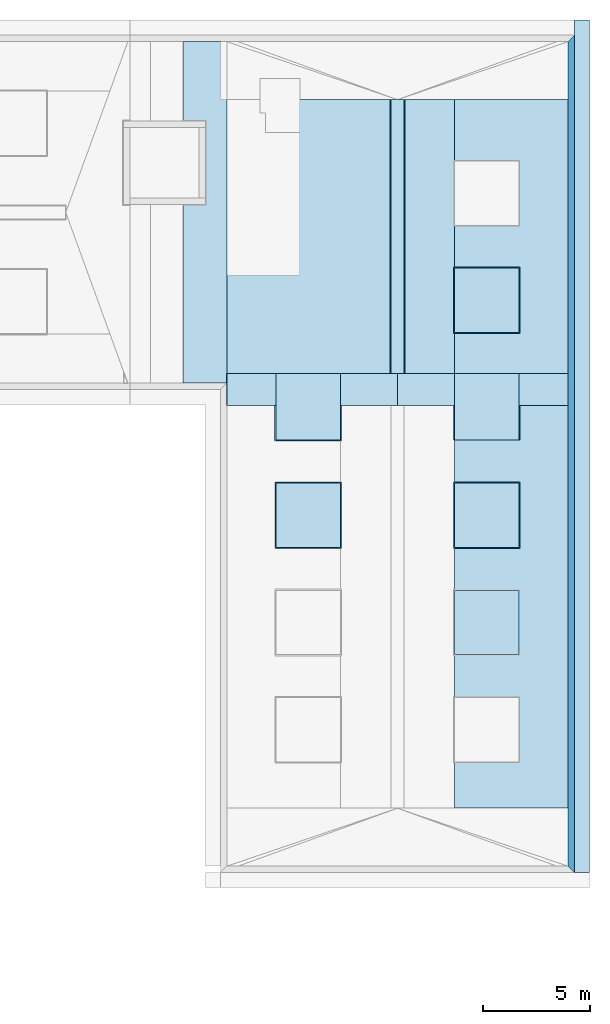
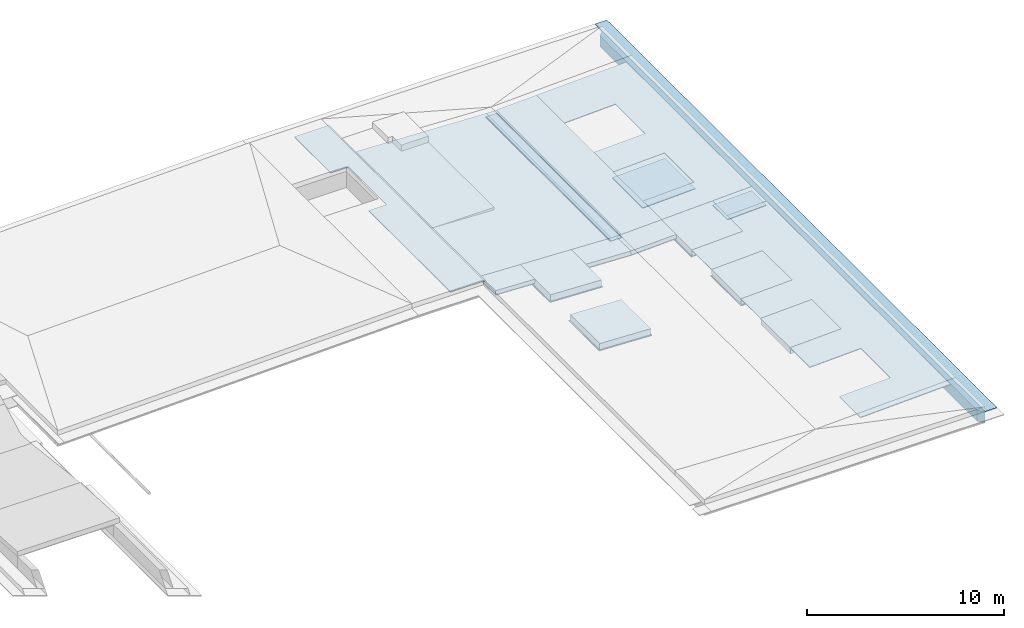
# One storey, part 3 of 8: 28 footings.
"""IFC4 building model written with IfcOpenShell, lengths in millimetres."""

from ifc_helpers import new_model, entity, si_unit, converted_unit, derived_unit, direction, frame, origin_with_axes, place, context, subcontext, project, spatial, polygons, material, type_object, element, save


model = new_model("IFC4")

# Units and contexts
model_context = context("Model", 3, precision=0.01, world=origin_with_axes(), true_north=direction((0.0, 1.0)))
body_context = subcontext(model_context, "Body", "Model", "MODEL_VIEW")
ifc_project = project(units=[si_unit("LENGTHUNIT", "METRE", prefix="MILLI"), si_unit("AREAUNIT", "SQUARE_METRE"), si_unit("VOLUMEUNIT", "CUBIC_METRE"), converted_unit("PLANEANGLEUNIT", "DEGREE", entity("IfcPlaneAngleMeasure", 0.0174532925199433), si_unit("PLANEANGLEUNIT", "RADIAN"), dimensions=[0, 0, 0, 0, 0, 0, 0]), converted_unit("TIMEUNIT", "Year", entity("IfcTimeMeasure", 31557600.0), si_unit("TIMEUNIT", "SECOND"), dimensions=[0, 0, 1, 0, 0, 0, 0]), si_unit("MASSUNIT", "GRAM", prefix="KILO"), si_unit("THERMODYNAMICTEMPERATUREUNIT", "DEGREE_CELSIUS"), si_unit("LUMINOUSINTENSITYUNIT", "LUMEN"), si_unit("ENERGYUNIT", "JOULE", prefix="MEGA"), derived_unit("THERMALCONDUCTANCEUNIT", [(si_unit("POWERUNIT", "WATT"), 1), (si_unit("LENGTHUNIT", "METRE"), -1), (si_unit("THERMODYNAMICTEMPERATUREUNIT", "KELVIN"), -1)]), derived_unit("SPECIFICHEATCAPACITYUNIT", [(si_unit("ENERGYUNIT", "JOULE"), 1), (si_unit("MASSUNIT", "GRAM", prefix="KILO"), -1), (si_unit("THERMODYNAMICTEMPERATUREUNIT", "KELVIN"), -1)]), derived_unit("MASSDENSITYUNIT", [(si_unit("MASSUNIT", "GRAM", prefix="KILO"), 1), (si_unit("VOLUMEUNIT", "CUBIC_METRE"), -1)])], contexts=[model_context])

# Site, building, storey
site_placement = place(None, origin_with_axes())
site = spatial("IfcSite", under=ifc_project, at=site_placement, Name="Gelände", CompositionType="ELEMENT")
building_placement = place(site_placement, origin_with_axes())
building = spatial("IfcBuilding", under=site, at=building_placement, Name="Gebäude", CompositionType="ELEMENT")
storey_placement = place(building_placement, frame((0.0, 0.0, -6000.0), z_axis=(0.0, 0.0, 1.0), x_axis=(1.0, 0.0, 0.0)))
storey = spatial("IfcBuildingStorey", under=building, at=storey_placement, Name="Fundation", CompositionType="ELEMENT", Elevation=-6000.0)

# Footings
ifc_material_1 = material(Name="Magerbeton")
footing_type_1 = type_object("IfcFootingType", Name="Magerbeton 50", PredefinedType="NOTDEFINED")
footing_1_placement = place(storey_placement, frame((24678.99744477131, 22197.59728131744, 2021.02494472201), z_axis=(0.0, 0.0, 1.0), x_axis=(0.0, 1.0, 0.0)))
element("IfcFooting", 1, at=footing_1_placement, inside=storey, type_object=footing_type_1, material=ifc_material_1, Name="Dach-009", PredefinedType="NOTDEFINED", context=body_context, shape_type="Tessellation", body=[
    polygons([(1499.999999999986, -7949.999999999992, 368.0399840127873), (14249.99999999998, -7949.999999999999, 368.0399840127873), (14249.99999999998, -2667.193634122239, 156.727729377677), (11399.99992176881, -2667.193634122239, 156.727729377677), (11399.99992176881, -5664.797692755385, 276.631891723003), (8400.00008940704, -5664.797692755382, 276.6318917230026), (8400.00008940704, -2667.193634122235, 156.7277293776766), (6400.000011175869, -2667.193634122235, 156.7277293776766), (6400.000011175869, -5664.797692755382, 276.6318917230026), (3399.99998882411, -5664.797692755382, 276.6318917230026), (3399.99998882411, -2667.193634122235, 156.7277293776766), (1499.999999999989, -2667.193634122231, 156.7277293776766), (1499.99999961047, -7950.000000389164, 318.0000002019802), (14249.99999961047, -7950.000000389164, 318.0000002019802), (14249.99999961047, -2667.193634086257, 106.6877455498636), (11399.9999217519, -2667.193634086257, 106.6877455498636), (11399.9999217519, -5664.79769301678, 226.591907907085), (8400.000089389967, -5664.79769301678, 226.591907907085), (8400.000089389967, -2667.193634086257, 106.6877455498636), (6400.00001115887, -2667.193634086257, 106.6877455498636), (6400.00001115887, -5664.79769301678, 226.591907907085), (3399.999988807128, -5664.79769301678, 226.591907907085), (3399.999988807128, -2667.193634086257, 106.6877455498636), (1499.99999961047, -2667.193634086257, 106.6877455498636)], [[[1, 2, 3, 4, 5, 6, 7, 8, 9, 10, 11, 12]], [[2, 1, 13, 14]], [[3, 2, 14, 15]], [[4, 3, 15, 16]], [[5, 4, 16, 17]], [[6, 5, 17, 18]], [[7, 6, 18, 19]], [[8, 7, 19, 20]], [[9, 8, 20, 21]], [[10, 9, 21, 22]], [[11, 10, 22, 23]], [[12, 11, 23, 24]], [[1, 12, 24, 13]], [[14, 13, 24, 23, 22, 21, 20, 19, 18, 17, 16, 15]]], closed=True),
])
footing_2_placement = place(storey_placement, frame((24678.94679590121, 22197.59728131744, 2019.718086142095), z_axis=(0.0, 0.0, 1.0), x_axis=(0.0, 1.0, 0.0)))
element("IfcFooting", 2, at=footing_2_placement, inside=storey, type_object=footing_type_1, material=ifc_material_1, Name="Dach-009", PredefinedType="NOTDEFINED", context=body_context, shape_type="Tessellation", body=[
    polygons([(-16600.00011175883, -2651.147250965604, 156.0858740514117), (-18750.00000000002, -2651.1472509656, 156.0858740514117), (-18750.00000000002, -7950.050648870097, 368.0420099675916), (0.0, -7950.05064887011, 368.0420099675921), (0.0, -5648.802052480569, 275.9920661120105), (-1600.000111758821, -5648.802052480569, 275.9920661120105), (-1600.000111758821, -2651.197899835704, 156.0879000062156), (-3600.00011175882, -2651.197899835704, 156.0879000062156), (-3600.00011175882, -5648.802052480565, 275.9920661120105), (-6600.000111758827, -5648.802052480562, 275.9920661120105), (-6600.000111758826, -2651.197899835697, 156.0879000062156), (-8600.000111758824, -2651.197899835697, 156.0879000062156), (-8600.000111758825, -5648.802052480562, 275.9920661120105), (-11600.00011175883, -5648.802052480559, 275.9920661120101), (-11600.00011175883, -2651.197899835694, 156.0879000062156), (-13600.00011175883, -2651.197899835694, 156.0879000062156), (-13600.00011175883, -5648.751403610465, 275.9900401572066), (-16600.00011175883, -5648.751403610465, 275.9900401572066), (-16600.00011177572, -2651.147251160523, 106.0458902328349), (-18750.00000038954, -2651.147251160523, 106.0458902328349), (-18750.00000038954, -7950.050649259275, 318.0020261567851), (-3.895372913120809e-07, -7950.050649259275, 318.0020261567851), (-3.895372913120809e-07, -5648.802052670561, 225.9520822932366), (-1600.000111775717, -5648.802052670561, 225.9520822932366), (-1600.000111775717, -2651.197899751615, 106.0479161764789), (-3600.000111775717, -2651.197899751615, 106.0479161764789), (-3600.000111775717, -5648.802052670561, 225.9520822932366), (-6600.000111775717, -5648.802052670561, 225.9520822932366), (-6600.000111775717, -2651.197899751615, 106.0479161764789), (-8600.000111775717, -2651.197899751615, 106.0479161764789), (-8600.000111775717, -5648.802052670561, 225.9520822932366), (-11600.00011177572, -5648.802052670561, 225.9520822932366), (-11600.00011177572, -2651.197899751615, 106.0479161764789), (-13600.00011177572, -2651.197899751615, 106.0479161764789), (-13600.00011177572, -5648.751403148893, 225.95005631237), (-16600.00011177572, -5648.751403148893, 225.95005631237)], [[[1, 2, 3, 4, 5, 6, 7, 8, 9, 10, 11, 12, 13, 14, 15, 16, 17, 18]], [[2, 1, 19, 20]], [[3, 2, 20, 21]], [[4, 3, 21, 22]], [[5, 4, 22, 23]], [[6, 5, 23, 24]], [[7, 6, 24, 25]], [[8, 7, 25, 26]], [[9, 8, 26, 27]], [[10, 9, 27, 28]], [[11, 10, 28, 29]], [[12, 11, 29, 30]], [[13, 12, 30, 31]], [[14, 13, 31, 32]], [[15, 14, 32, 33]], [[16, 15, 33, 34]], [[17, 16, 34, 35]], [[18, 17, 35, 36]], [[1, 18, 36, 19]], [[20, 19, 36, 35, 34, 33, 32, 31, 30, 29, 28, 27, 26, 25, 24, 23, 22, 21]]], closed=True),
])
footing_3_placement = place(storey_placement, frame((24676.99904285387, 22197.59728131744, 2019.636976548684), z_axis=(0.0, 0.0, 1.0), x_axis=(0.0, 1.0, 0.0)))
element("IfcFooting", 3, at=footing_3_placement, inside=storey, type_object=footing_type_1, material=ifc_material_1, Name="Dach-009", PredefinedType="NOTDEFINED", context=body_context, shape_type="Tessellation", body=[
    polygons([(1499.999999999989, -2669.192036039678, 156.8076654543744), (14249.99999999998, -2669.192036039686, 156.8076654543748), (14249.99999999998, -301.9984019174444, 62.11992008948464), (1499.999999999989, -301.9984019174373, 62.11992008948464), (1499.999999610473, -2669.192036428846, 106.7676816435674), (14249.99999961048, -2669.192036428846, 106.7676816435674), (14249.99999961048, -301.9984019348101, 12.07993626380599), (1499.999999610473, -301.9984019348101, 12.07993626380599)], [[[1, 2, 3, 4]], [[2, 1, 5, 6]], [[3, 2, 6, 7]], [[4, 3, 7, 8]], [[1, 4, 8, 5]], [[6, 5, 8, 7]]], closed=True),
])
footing_4_placement = place(storey_placement, frame((24680.99584668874, 36447.59728131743, 2019.636976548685), z_axis=(0.0, 0.0, 1.0), x_axis=(0.0, -1.0, 0.0)))
element("IfcFooting", 4, at=footing_4_placement, inside=storey, type_object=footing_type_1, material=ifc_material_1, Name="Dach-009", PredefinedType="NOTDEFINED", context=body_context, shape_type="Tessellation", body=[
    polygons([(0.0, -7949.999999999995, 368.0399840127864), (12750.0, -7949.999999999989, 368.0399840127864), (12750.0, -301.9984019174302, 62.11992008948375), (0.0, -301.9984019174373, 62.1199200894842), (-3.895195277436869e-07, -7950.000000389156, 318.0000002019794), (12749.99999961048, -7950.000000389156, 318.0000002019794), (12749.99999961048, -301.9984018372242, 12.079936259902), (-3.895195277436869e-07, -301.9984018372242, 12.079936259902)], [[[1, 2, 3, 4]], [[2, 1, 5, 6]], [[3, 2, 6, 7]], [[4, 3, 7, 8]], [[1, 4, 8, 5]], [[6, 5, 8, 7]]], closed=True),
])
footing_5_placement = place(storey_placement, frame((18964.23958879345, 18647.5972813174, 1872.231201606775), z_axis=(0.0, 0.0, 1.0), x_axis=(0.0, -1.0, 0.0)))
element("IfcFooting", 5, at=footing_5_placement, inside=storey, type_object=footing_type_1, material=ifc_material_1, Name="Dach-009", PredefinedType="NOTDEFINED", context=body_context, shape_type="Tessellation", body=[
    polygons([(0.0, 3107.516304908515, -74.22755005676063), (0.0, 0.0, 50.03996270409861), (3100.0, 0.0, 50.03996270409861), (3100.0, 3107.516304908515, -74.22755005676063), (-3.895159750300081e-07, 3107.516304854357, -124.2675125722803), (-3.895159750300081e-07, -3.891571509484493e-07, 2.01976213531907e-07), (3100.000000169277, -3.891571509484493e-07, 2.01976213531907e-07), (3100.000000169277, 3107.516304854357, -124.2675125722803)], [[[1, 2, 3, 4]], [[2, 1, 5, 6]], [[3, 2, 6, 7]], [[4, 3, 7, 8]], [[1, 4, 8, 5]], [[6, 5, 8, 7]]], closed=True),
])
footing_6_placement = place(storey_placement, frame((18962.24012200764, 23647.59728131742, 1847.733969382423), z_axis=(0.0, 0.0, 1.0), x_axis=(0.0, -1.0, 0.0)))
element("IfcFooting", 6, at=footing_6_placement, inside=storey, type_object=footing_type_1, material=ifc_material_1, Name="Dach-009", PredefinedType="NOTDEFINED", context=body_context, shape_type="Tessellation", body=[
    polygons([(-50.00000000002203, 3107.516304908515, -74.22755005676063), (-50.00000000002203, 0.0, 50.03996270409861), (3099.999999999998, 0.0, 50.03996270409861), (3099.999999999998, 3107.516304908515, -74.22755005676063), (-50.000000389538, 3107.516304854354, -124.2675125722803), (-50.000000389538, -3.891607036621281e-07, 2.01976213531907e-07), (3099.999999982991, -3.891607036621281e-07, 2.01976213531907e-07), (3099.999999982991, 3107.516304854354, -124.2675125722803)], [[[1, 2, 3, 4]], [[2, 1, 5, 6]], [[3, 2, 6, 7]], [[4, 3, 7, 8]], [[1, 4, 8, 5]], [[6, 5, 8, 7]]], closed=True),
])
footing_7_placement = place(storey_placement, frame((30393.75530074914, 15547.5972813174, 1872.231201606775), z_axis=(0.0, 0.0, 1.0), x_axis=(0.0, 1.0, 0.0)))
element("IfcFooting", 7, at=footing_7_placement, inside=storey, type_object=footing_type_1, material=ifc_material_1, Name="Dach-009", PredefinedType="NOTDEFINED", context=body_context, shape_type="Tessellation", body=[
    polygons([(0.0, 0.0, 50.03996270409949), (3099.999999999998, 0.0, 50.03996270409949), (3099.999999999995, 3097.524291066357, -73.82797606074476), (0.0, 3097.524291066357, -73.82797606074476), (-3.895159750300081e-07, -3.891642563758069e-07, 2.019771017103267e-07), (3100.000000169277, -3.891642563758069e-07, 2.019771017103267e-07), (3100.000000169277, 3097.524291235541, -123.8679385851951), (-3.895159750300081e-07, 3097.524291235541, -123.8679385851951)], [[[1, 2, 3, 4]], [[2, 1, 5, 6]], [[3, 2, 6, 7]], [[4, 3, 7, 8]], [[1, 4, 8, 5]], [[6, 5, 8, 7]]], closed=True),
])
footing_8_placement = place(storey_placement, frame((30395.75476753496, 20597.59728131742, 1847.733969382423), z_axis=(0.0, 0.0, 1.0), x_axis=(0.0, 1.0, 0.0)))
element("IfcFooting", 8, at=footing_8_placement, inside=storey, type_object=footing_type_1, material=ifc_material_1, Name="Dach-009", PredefinedType="NOTDEFINED", context=body_context, shape_type="Tessellation", body=[
    polygons([(0.0, 0.0, 50.03996270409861), (3099.999999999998, 0.0, 50.03996270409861), (3099.999999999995, 3097.524291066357, -73.82797606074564), (0.0, 3097.524291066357, -73.82797606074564), (-3.895159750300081e-07, -3.891642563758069e-07, 2.019753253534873e-07), (3100.000000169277, -3.891642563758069e-07, 2.019753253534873e-07), (3100.000000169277, 3097.524291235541, -123.867938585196), (-3.895159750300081e-07, 3097.524291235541, -123.867938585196)], [[[1, 2, 3, 4]], [[2, 1, 5, 6]], [[3, 2, 6, 7]], [[4, 3, 7, 8]], [[1, 4, 8, 5]], [[6, 5, 8, 7]]], closed=True),
])
footing_9_placement = place(storey_placement, frame((30393.75530074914, 25547.5972813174, 1872.231201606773), z_axis=(0.0, 0.0, 1.0), x_axis=(0.0, 1.0, 0.0)))
element("IfcFooting", 9, at=footing_9_placement, inside=storey, type_object=footing_type_1, material=ifc_material_1, Name="Dach-009", PredefinedType="NOTDEFINED", context=body_context, shape_type="Tessellation", body=[
    polygons([(0.0, 0.0, 50.03996270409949), (3099.999999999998, 0.0, 50.03996270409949), (3099.999999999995, 3097.524291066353, -73.82797606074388), (0.0, 3097.524291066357, -73.82797606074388), (-3.895159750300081e-07, -3.891642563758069e-07, 2.019771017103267e-07), (3100.000000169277, -3.891642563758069e-07, 2.019771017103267e-07), (3100.000000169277, 3097.524291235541, -123.8679385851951), (-3.895159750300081e-07, 3097.524291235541, -123.8679385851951)], [[[1, 2, 3, 4]], [[2, 1, 5, 6]], [[3, 2, 6, 7]], [[4, 3, 7, 8]], [[1, 4, 8, 5]], [[6, 5, 8, 7]]], closed=True),
])
footing_10_placement = place(storey_placement, frame((22016.62026772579, 23697.59728131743, 1875.987014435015), z_axis=(0.0, 0.0, 1.0), x_axis=(0.0, -1.0, 0.0)))
element("IfcFooting", 10, at=footing_10_placement, inside=storey, type_object=footing_type_1, material=ifc_material_1, Name="Dach-009", PredefinedType="NOTDEFINED", context=body_context, shape_type="Tessellation", body=[
    polygons([(0.0, 2662.377177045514, -56.42673203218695), (0.0, 0.0, 50.03996270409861), (1500.0, 0.0, 50.03996270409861), (1500.0, 2662.377177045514, -56.42673203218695), (-3.895159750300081e-07, 2662.377177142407, -106.4666945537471), (-3.895159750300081e-07, -3.891607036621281e-07, 2.019753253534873e-07), (1499.999999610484, -3.891607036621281e-07, 2.019753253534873e-07), (1499.999999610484, 2662.377177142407, -106.4666945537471)], [[[1, 2, 3, 4]], [[2, 1, 5, 6]], [[3, 2, 6, 7]], [[4, 3, 7, 8]], [[1, 4, 8, 5]], [[6, 5, 8, 7]]], closed=True),
])
footing_11_placement = place(storey_placement, frame((32628.99744477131, 20597.59728131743, 2087.519700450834), z_axis=(0.0, 0.0, 1.0), x_axis=(0.0, 1.0, 0.0)))
element("IfcFooting", 11, at=footing_11_placement, inside=storey, type_object=footing_type_1, material=ifc_material_1, Name="Dach-009", PredefinedType="NOTDEFINED", context=body_context, shape_type="Tessellation", body=[
    polygons([(1600.000000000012, 0.0, 50.03996270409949), (3100.000000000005, 0.0, 50.03996270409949), (3099.999999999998, 2291.208597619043, -41.58394710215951), (1600.000000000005, 2291.208597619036, -41.58394710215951), (1599.999999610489, -3.891713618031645e-07, 2.01976213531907e-07), (3099.999999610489, -3.891713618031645e-07, 2.01976213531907e-07), (3099.999999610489, 2291.208597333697, -91.62390960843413), (1599.999999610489, 2291.208597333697, -91.62390960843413)], [[[1, 2, 3, 4]], [[2, 1, 5, 6]], [[3, 2, 6, 7]], [[4, 3, 7, 8]], [[1, 4, 8, 5]], [[6, 5, 8, 7]]], closed=True),
])
footing_12_placement = place(storey_placement, frame((16722.00489984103, 25297.59728131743, 2087.799397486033), z_axis=(0.0, 0.0, 1.0), x_axis=(0.0, -1.0, 0.0)))
element("IfcFooting", 12, at=footing_12_placement, inside=storey, type_object=footing_type_1, material=ifc_material_1, Name="Dach-009", PredefinedType="NOTDEFINED", context=body_context, shape_type="Tessellation", body=[
    polygons([(1600.000000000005, 2298.202888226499, -41.86364413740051), (1600.000000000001, 0.0, 50.03996270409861), (3100.000000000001, 0.0, 50.03996270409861), (3100.000000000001, 2298.202888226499, -41.86364413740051), (1599.999999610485, 2298.202888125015, -91.90360665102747), (1599.999999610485, -3.891678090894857e-07, 2.01976213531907e-07), (3099.999999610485, -3.891678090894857e-07, 2.01976213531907e-07), (3099.999999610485, 2298.202888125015, -91.90360665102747)], [[[1, 2, 3, 4]], [[2, 1, 5, 6]], [[3, 2, 6, 7]], [[4, 3, 7, 8]], [[1, 4, 8, 5]], [[6, 5, 8, 7]]], closed=True),
])
footing_13_placement = place(storey_placement, frame((27341.37462181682, 22197.59728131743, 1875.987014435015), z_axis=(0.0, 0.0, 1.0), x_axis=(0.0, 1.0, 0.0)))
element("IfcFooting", 13, at=footing_13_placement, inside=storey, type_object=footing_type_1, material=ifc_material_1, Name="Dach-009", PredefinedType="NOTDEFINED", context=body_context, shape_type="Tessellation", body=[
    polygons([(0.0, 0.0, 50.03996270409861), (1500.0, 0.0, 50.03996270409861), (1500.0, 2662.377177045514, -56.42673203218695), (0.0, 2662.377177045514, -56.42673203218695), (-3.895159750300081e-07, -3.891642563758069e-07, 2.01976213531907e-07), (1499.999999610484, -3.891642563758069e-07, 2.01976213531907e-07), (1499.999999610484, 2662.377177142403, -106.4666945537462), (-3.895159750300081e-07, 2662.377177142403, -106.4666945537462)], [[[1, 2, 3, 4]], [[2, 1, 5, 6]], [[3, 2, 6, 7]], [[4, 3, 7, 8]], [[1, 4, 8, 5]], [[6, 5, 8, 7]]], closed=True),
])
footing_14_placement = place(storey_placement, frame((24328.9974447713, 23697.59728131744, 1851.993427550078), z_axis=(0.0, 0.0, 1.0), x_axis=(1.0, 0.0, 0.0)))
element("IfcFooting", 14, at=footing_14_placement, inside=storey, type_object=footing_type_1, material=ifc_material_1, Name="Deckennr.-074", PredefinedType="NOTDEFINED", context=body_context, shape_type="Tessellation", body=[
    polygons([(50.00000000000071, 12749.99999999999, 49.99999999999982), (50.00000000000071, 12749.99999999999, 29.76346908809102), (650.0000000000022, 12749.99999999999, 29.76346908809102), (650.0000000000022, 12749.99999999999, 49.99999999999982), (700.0000000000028, 12749.99999999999, 49.99999999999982), (700.0000000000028, 12749.99999999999, 0.0), (0.0, 12749.99999999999, 0.0), (0.0, 12749.99999999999, 49.99999999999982), (50.00000000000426, 0.0, 29.76346908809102), (50.00000000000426, 0.0, 49.99999999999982), (650.0000000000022, 0.0, 29.76346908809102), (650.0000000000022, 0.0, 49.99999999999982), (700.0000000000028, 0.0, 49.99999999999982), (700.0000000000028, 0.0, 0.0), (0.0, 0.0, 0.0), (0.0, 0.0, 49.99999999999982)], [[[1, 2, 3, 4, 5, 6, 7, 8]], [[9, 2, 1, 10]], [[11, 3, 2, 9]], [[11, 12, 4, 3]], [[5, 4, 12, 13]], [[5, 13, 14, 6]], [[6, 14, 15, 7]], [[16, 8, 7, 15]], [[16, 10, 1, 8]], [[11, 9, 10, 16, 15, 14, 13, 12]]], closed=True),
])
footing_type_2 = type_object("IfcFootingType", Name="Magerbeton 50", PredefinedType="NOTDEFINED")
footing_15_placement = place(storey_placement, frame((33629.00001515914, 40147.59545820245, 2400.0), z_axis=(0.0, 0.0, 1.0), x_axis=(1.0, 0.0, 0.0)))
element("IfcFooting", 15, at=footing_15_placement, inside=storey, type_object=footing_type_2, material=ifc_material_1, Name="Deckennr.-072", PredefinedType="NOTDEFINED", context=body_context, shape_type="Tessellation", body=[
    polygons([(-700.0025703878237, -999.9981990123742, -49.99999999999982), (-700.0025703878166, -39699.99817688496, -49.99999999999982), (-700.0025703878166, -39699.99817688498, 0.0), (-700.0025703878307, -999.9982006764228, 0.0), (-699.9999999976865, 0.001799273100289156, 0.0), (-699.9999999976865, 0.001799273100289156, -49.99999999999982), (-0.1020444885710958, -39699.99997590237, -49.99999999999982), (0.0, 0.0, -49.99999999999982), (-0.1020444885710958, -39699.99997590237, 0.0), (0.0, 0.0, 0.0)], [[[1, 2, 3, 4, 5, 6]], [[7, 2, 1, 6, 8]], [[9, 3, 2, 7]], [[5, 4, 3, 9, 10]], [[8, 6, 5, 10]], [[10, 9, 7, 8]]], closed=True),
])
footing_16_placement = place(storey_placement, frame((16728.99733133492, 39147.59725747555, 2399.999999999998), z_axis=(0.0, 0.0, 1.0), x_axis=(1.0, 0.0, 0.0)))
element("IfcFooting", 16, at=footing_16_placement, inside=storey, type_object=footing_type_2, material=ifc_material_1, Name="Deckennr.-070", PredefinedType="NOTDEFINED", context=body_context, shape_type="Tessellation", body=[
    polygons([(1.998493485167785, -15899.99995231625, -12.32036740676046), (1.998493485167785, -15449.99997615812, -12.32036740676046), (1.998493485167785, -15449.99997615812, -49.99999999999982), (1.998493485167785, -2700.00000084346, -49.99999999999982), (1.998493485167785, -2700.00000084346, 0.0), (1.998493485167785, -15899.99995231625, 0.0), (0.0001134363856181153, -15449.99997615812, -12.24045351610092), (0.0001134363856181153, -15899.99995231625, -12.24045351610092), (0.0001134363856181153, -15449.99997615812, -49.99999999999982), (0.0001134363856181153, -15899.99995231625, -49.99999999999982), (-2049.999886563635, -15899.99995231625, -49.99999999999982), (-2049.999886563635, -7574.999976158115, -49.99999999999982), (-999.9999916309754, -7574.999976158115, -49.99999999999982), (-999.9999916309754, -3699.999976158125, -49.99999999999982), (-2049.999886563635, -3699.999976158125, -49.99999999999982), (-2049.999886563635, 0.0, -49.99999999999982), (0.0, 0.0, -49.99999999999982), (0.0, -2700.00000084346, -49.99999999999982), (0.0, -2700.00000084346, 0.0), (0.0, 0.0, 0.0), (-2049.999886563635, 0.0, 0.0), (-2049.999886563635, -3699.999976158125, 0.0), (-999.9999916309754, -3699.999976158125, 0.0), (-999.9999916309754, -7574.999976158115, 0.0), (-2049.999886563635, -7574.999976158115, 0.0), (-2049.999886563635, -15899.99995231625, 0.0)], [[[1, 2, 3, 4, 5, 6]], [[7, 2, 1, 8]], [[9, 3, 2, 7]], [[3, 9, 10, 11, 12, 13, 14, 15, 16, 17, 18, 4]], [[19, 5, 4, 18]], [[5, 19, 20, 21, 22, 23, 24, 25, 26, 6]], [[10, 8, 1, 6, 26, 11]], [[8, 10, 9, 7]], [[26, 25, 12, 11]], [[25, 24, 13, 12]], [[24, 23, 14, 13]], [[23, 22, 15, 14]], [[22, 21, 16, 15]], [[21, 20, 17, 16]], [[20, 19, 18, 17]]], closed=True),
])
ifc_material_2 = material(Name="Beton bewehrt")
footing_type_3 = type_object("IfcFootingType", Name="Beton bewehrt 300 x 700", PredefinedType="NOTDEFINED")
footing_17_placement = place(storey_placement, frame((32928.9974447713, 39447.59725747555, 2399.999999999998), z_axis=(0.0, 0.0, 1.0), x_axis=(-1.0, 0.0, 0.0)))
element("IfcFooting", 17, at=footing_17_placement, inside=storey, type_object=footing_type_3, material=ifc_material_2, Name="Unterzug-026", PredefinedType="NOTDEFINED", context=body_context, shape_type="Tessellation", body=[
    polygons([(299.9999999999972, 300.0000000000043, 0.0), (299.9999999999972, 38699.99997615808, 0.0), (0.0, 38999.99997615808, 0.0), (0.0, 0.0, 0.0), (299.9999999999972, 300.0000000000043, -699.9999999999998), (299.9999999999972, 38699.99997615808, -699.9999999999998), (0.0, 38999.99997615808, -699.9999999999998), (0.0, 0.0, -699.9999999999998)], [[[1, 2, 3, 4]], [[5, 6, 2, 1]], [[3, 2, 6, 7]], [[4, 3, 7, 8]], [[5, 1, 4, 8]], [[8, 7, 6, 5]]], closed=True),
])
footing_type_4 = type_object("IfcFootingType", Name="Beton bewehrt 3000 x 3000", PredefinedType="NOTDEFINED")
footing_18_placement = place(storey_placement, frame((20513.00173432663, 17097.5972813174, 1835.757941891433), z_axis=(0.0, 0.0, 1.0), x_axis=(0.0, -1.0, 0.0)))
element("IfcFooting", 18, at=footing_18_placement, inside=storey, type_object=footing_type_4, material=ifc_material_2, Name="Stütze-015", PredefinedType="NOTDEFINED", context=body_context, shape_type="Tessellation", body=[
    polygons([(-1500.0, -1482.806342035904, 459.9360994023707), (-1500.0, -1498.802076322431, 59.93609940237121), (1500.0, -1498.802076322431, 59.93609940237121), (1500.0, -1482.806342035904, 459.9360994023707), (-1500.0, 1514.797810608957, 340.0639005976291), (-1500.0, 1498.802076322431, -59.93609940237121), (1500.0, 1498.802076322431, -59.93609940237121), (1500.0, 1514.797810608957, 340.0639005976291)], [[[1, 2, 3, 4]], [[5, 6, 2, 1]], [[3, 2, 6, 7]], [[4, 3, 7, 8]], [[5, 1, 4, 8]], [[8, 7, 6, 5]]], closed=True),
])
footing_19_placement = place(storey_placement, frame((28844.99315521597, 12097.5972813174, 1835.75806920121), z_axis=(0.0, 0.0, 1.0), x_axis=(0.0, 1.0, 0.0)))
element("IfcFooting", 19, at=footing_19_placement, inside=storey, type_object=footing_type_4, material=ifc_material_2, Name="Stütze-015", PredefinedType="NOTDEFINED", context=body_context, shape_type="Tessellation", body=[
    polygons([(1500.0, 1514.797810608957, 340.0639005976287), (1500.0, 1498.802076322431, -59.93609940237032), (-1500.0, 1498.802076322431, -59.93609940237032), (-1500.0, 1514.797810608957, 340.0639005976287), (1500.0, -1482.806342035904, 459.9360994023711), (1500.0, -1498.802076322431, 59.9360994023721), (-1500.0, -1498.802076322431, 59.9360994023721), (-1500.0, -1482.806342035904, 459.9360994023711)], [[[1, 2, 3, 4]], [[5, 6, 2, 1]], [[3, 2, 6, 7]], [[4, 3, 7, 8]], [[5, 1, 4, 8]], [[8, 7, 6, 5]]], closed=True),
])
footing_20_placement = place(storey_placement, frame((28844.99315521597, 17097.5972813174, 1835.75806920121), z_axis=(0.0, 0.0, 1.0), x_axis=(0.0, 1.0, 0.0)))
element("IfcFooting", 20, at=footing_20_placement, inside=storey, type_object=footing_type_4, material=ifc_material_2, Name="Stütze-015", PredefinedType="NOTDEFINED", context=body_context, shape_type="Tessellation", body=[
    polygons([(1500.0, 1514.797810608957, 340.0639005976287), (1500.0, 1498.802076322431, -59.93609940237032), (-1499.999999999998, 1498.802076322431, -59.93609940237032), (-1499.999999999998, 1514.797810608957, 340.0639005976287), (1500.000000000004, -1482.806342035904, 459.9360994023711), (1500.000000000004, -1498.802076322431, 59.9360994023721), (-1499.999999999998, -1498.802076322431, 59.9360994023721), (-1499.999999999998, -1482.806342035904, 459.9360994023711)], [[[1, 2, 3, 4]], [[5, 6, 2, 1]], [[3, 2, 6, 7]], [[4, 3, 7, 8]], [[5, 1, 4, 8]], [[8, 7, 6, 5]]], closed=True),
])
footing_21_placement = place(storey_placement, frame((28844.99315521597, 27097.5972813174, 1835.75806920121), z_axis=(0.0, 0.0, 1.0), x_axis=(0.0, 1.0, 0.0)))
element("IfcFooting", 21, at=footing_21_placement, inside=storey, type_object=footing_type_4, material=ifc_material_2, Name="Stütze-015", PredefinedType="NOTDEFINED", context=body_context, shape_type="Tessellation", body=[
    polygons([(1500.0, 1514.797810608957, 340.0639005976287), (1500.0, 1498.802076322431, -59.93609940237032), (-1500.0, 1498.802076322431, -59.93609940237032), (-1500.0, 1514.797810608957, 340.0639005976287), (1500.000000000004, -1482.806342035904, 459.9360994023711), (1500.000000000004, -1498.802076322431, 59.9360994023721), (-1499.999999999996, -1498.802076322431, 59.9360994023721), (-1499.999999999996, -1482.806342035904, 459.9360994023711)], [[[1, 2, 3, 4]], [[5, 6, 2, 1]], [[3, 2, 6, 7]], [[4, 3, 7, 8]], [[5, 1, 4, 8]], [[8, 7, 6, 5]]], closed=True),
])
footing_type_5 = type_object("IfcFootingType", Name="Beton bewehrt 3100 x 3000", PredefinedType="NOTDEFINED")
footing_22_placement = place(storey_placement, frame((20513.00173432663, 22147.59728131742, 1835.8), z_axis=(0.0, 0.0, 1.0), x_axis=(0.0, -1.0, 0.0)))
element("IfcFooting", 22, at=footing_22_placement, inside=storey, type_object=footing_type_5, material=ifc_material_2, Name="Stütze-015", PredefinedType="NOTDEFINED", context=body_context, shape_type="Tessellation", body=[
    polygons([(-1550.000000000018, -1482.806342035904, 459.9360994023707), (-1550.000000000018, -1498.802076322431, 59.93609940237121), (1550.000000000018, -1498.802076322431, 59.93609940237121), (1550.000000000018, -1482.806342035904, 459.9360994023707), (-1550.000000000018, 1514.797810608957, 340.0639005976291), (-1550.000000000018, 1498.802076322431, -59.93609940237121), (1550.000000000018, 1498.802076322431, -59.93609940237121), (1550.000000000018, 1514.797810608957, 340.0639005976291)], [[[1, 2, 3, 4]], [[5, 6, 2, 1]], [[3, 2, 6, 7]], [[4, 3, 7, 8]], [[5, 1, 4, 8]], [[8, 7, 6, 5]]], closed=True),
])
footing_23_placement = place(storey_placement, frame((28844.99315521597, 22147.59728131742, 1835.8), z_axis=(0.0, 0.0, 1.0), x_axis=(0.0, 1.0, 0.0)))
element("IfcFooting", 23, at=footing_23_placement, inside=storey, type_object=footing_type_5, material=ifc_material_2, Name="Stütze-015", PredefinedType="NOTDEFINED", context=body_context, shape_type="Tessellation", body=[
    polygons([(1550.000000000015, 1514.797810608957, 340.0639005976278), (1550.000000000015, 1498.802076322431, -59.93609940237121), (-1550.000000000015, 1498.802076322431, -59.93609940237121), (-1550.000000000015, 1514.797810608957, 340.0639005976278), (1550.000000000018, -1482.806342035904, 459.9360994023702), (1550.000000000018, -1498.802076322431, 59.93609940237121), (-1550.000000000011, -1498.802076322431, 59.93609940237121), (-1550.000000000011, -1482.806342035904, 459.9360994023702)], [[[1, 2, 3, 4]], [[5, 6, 2, 1]], [[3, 2, 6, 7]], [[4, 3, 7, 8]], [[5, 1, 4, 8]], [[8, 7, 6, 5]]], closed=True),
])
footing_type_6 = type_object("IfcFootingType", Name="Beton bewehrt 1500 x 250", PredefinedType="NOTDEFINED")
footing_24_placement = place(storey_placement, frame((24678.9974447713, 22947.59728131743, 2069.760095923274), z_axis=(0.0, 0.0, 1.0), x_axis=(0.0, -1.0, 0.0)))
element("IfcFooting", 24, at=footing_24_placement, inside=storey, type_object=footing_type_6, material=ifc_material_2, Name="Unterzug-024", PredefinedType="NOTDEFINED", context=body_context, shape_type="Tessellation", body=[
    polygons([(750.0, 0.0, -250.199813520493), (-750.0, 0.0, -250.1998135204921), (-750.0, 2661.185504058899, -143.7807729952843), (750.0, 2661.185504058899, -143.7807729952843), (750.0, 0.0, 0.0), (-750.0, 0.0, 0.0), (-750.0, 2651.196154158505, 106.0195730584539), (750.0, 2651.196154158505, 106.0195730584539)], [[[1, 2, 3, 4]], [[5, 6, 2, 1]], [[2, 6, 7, 3]], [[8, 4, 3, 7]], [[5, 1, 4, 8]], [[6, 5, 8, 7]]], closed=True),
])
footing_25_placement = place(storey_placement, frame((24678.9974447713, 22947.59728131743, 2069.760095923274), z_axis=(0.0, 0.0, 1.0), x_axis=(0.0, 1.0, 0.0)))
element("IfcFooting", 25, at=footing_25_placement, inside=storey, type_object=footing_type_6, material=ifc_material_2, Name="Unterzug-024", PredefinedType="NOTDEFINED", context=body_context, shape_type="Tessellation", body=[
    polygons([(-750.0, 0.0, 0.0), (750.0, 0.0, 0.0), (750.0, 2651.196154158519, 106.0195730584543), (-750.0, 2651.196154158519, 106.0195730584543), (-750.0, 0.0, -250.1998135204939), (750.0, 0.0, -250.199813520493), (750.0, 2661.185504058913, -143.7807729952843), (-750.0, 2661.185504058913, -143.7807729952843)], [[[1, 2, 3, 4]], [[5, 6, 2, 1]], [[2, 6, 7, 3]], [[8, 4, 3, 7]], [[5, 1, 4, 8]], [[6, 5, 8, 7]]], closed=True),
])
footing_26_placement = place(storey_placement, frame((19030.19713796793, 22947.59728131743, 2295.736099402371), z_axis=(0.0, 0.0, 1.0), x_axis=(0.0, 1.0, 0.0)))
element("IfcFooting", 26, at=footing_26_placement, inside=storey, type_object=footing_type_6, material=ifc_material_2, Name="Unterzug-024", PredefinedType="NOTDEFINED", context=body_context, shape_type="Tessellation", body=[
    polygons([(-750.0, 0.0, 0.0), (750.0, 0.0, 0.0), (750.0, 2301.19969319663, 92.02344708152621), (-750.0, 2301.19969319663, 92.02344708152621), (-750.0, 9.989349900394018, -249.8003460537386), (750.0, 9.989349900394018, -249.8003460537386), (750.0, 2301.19969319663, -158.1763664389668), (-750.0, 2301.19969319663, -158.1763664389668)], [[[1, 2, 3, 4]], [[5, 6, 2, 1]], [[2, 6, 7, 3]], [[8, 4, 3, 7]], [[5, 1, 4, 8]], [[6, 5, 8, 7]]], closed=True),
])
footing_27_placement = place(storey_placement, frame((30327.79949725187, 22947.59728131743, 2295.73609940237), z_axis=(0.0, 0.0, 1.0), x_axis=(0.0, -1.0, 0.0)))
element("IfcFooting", 27, at=footing_27_placement, inside=storey, type_object=footing_type_6, material=ifc_material_2, Name="Unterzug-024", PredefinedType="NOTDEFINED", context=body_context, shape_type="Tessellation", body=[
    polygons([(750.0, 9.989349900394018, -249.8003460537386), (-750.0, 9.989349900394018, -249.8003460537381), (-750.0, 2301.19969319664, -158.1763664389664), (750.0, 2301.19969319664, -158.1763664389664), (750.0, 0.0, 0.0), (-750.0, 0.0, 0.0), (-750.0, 2301.19969319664, 92.02344708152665), (750.0, 2301.19969319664, 92.02344708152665)], [[[1, 2, 3, 4]], [[5, 6, 2, 1]], [[2, 6, 7, 3]], [[8, 4, 3, 7]], [[5, 1, 4, 8]], [[6, 5, 8, 7]]], closed=True),
])
footing_type_7 = type_object("IfcFootingType", Name="Beton bewehrt 600 x 200", PredefinedType="NOTDEFINED")
footing_28_placement = place(storey_placement, frame((24678.9974447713, 36447.59728131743, 2081.75689663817), z_axis=(0.0, 0.0, 1.0), x_axis=(-1.0, 0.0, 0.0)))
element("IfcFooting", 28, at=footing_28_placement, inside=storey, type_object=footing_type_7, material=ifc_material_2, Name="Unterzug-024", PredefinedType="NOTDEFINED", context=body_context, shape_type="Tessellation", body=[
    polygons([(300.0000000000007, 0.0, 0.0), (299.9999999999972, 12749.99999999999, 0.0), (-300.0000000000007, 12749.99999999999, 0.0), (-300.0000000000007, 0.0, 0.0), (300.0000000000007, 0.0, -200.0000000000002), (299.9999999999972, 12749.99999999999, -200.0000000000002), (-300.0000000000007, 12749.99999999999, -200.0000000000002), (-300.0000000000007, 0.0, -200.0000000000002)], [[[1, 2, 3, 4]], [[5, 6, 2, 1]], [[3, 2, 6, 7]], [[4, 3, 7, 8]], [[5, 1, 4, 8]], [[8, 7, 6, 5]]], closed=True),
])

save(model, "model.ifc")
